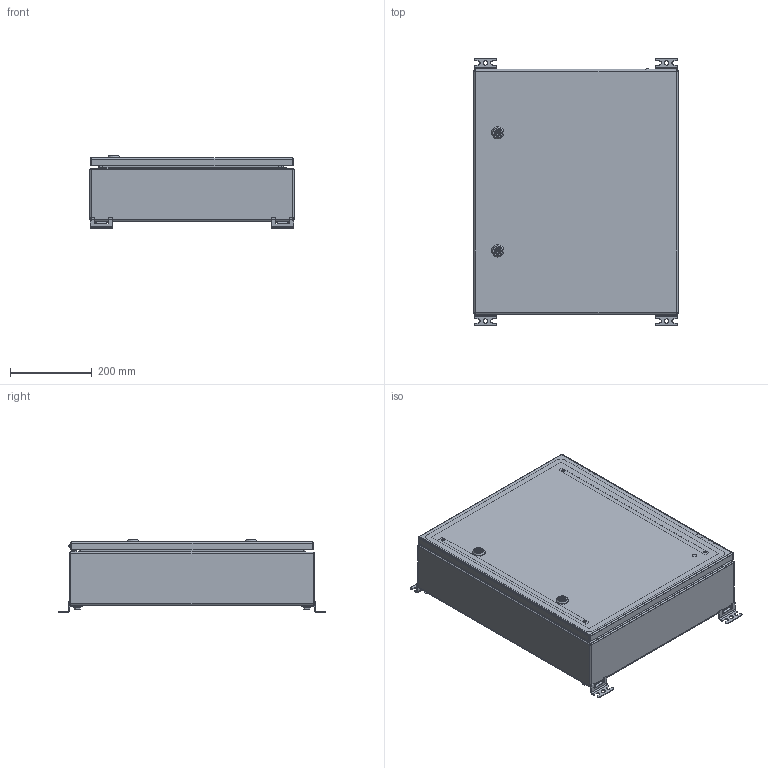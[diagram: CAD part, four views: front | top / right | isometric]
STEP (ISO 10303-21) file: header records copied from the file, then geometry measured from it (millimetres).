
FILE_DESCRIPTION(('STEP AP242'), '1');
FILE_NAME('400 ﾙﾌﾏ-1 (IP-56)', '', ('UNSPECIFIED'), ('UNSPECIFIED'), 'C3D Converter', 'C3D Toolkit', '');
FILE_SCHEMA(('AP242_MANAGED_MODEL_BASED_3D_ENGINEERING_MIM_LF { 1 0 10303 442 1 1 4 }'));
Length unit declared in the file: millimetre
Products named in the file (46): ЩМП-1-Ф СБ; 410-Ф; 420; 421; 411-Ф; 412; 490; 491; 401; 440-Ф; 441-Ф; 402; 450; 451; ЦИУЛ.210677.00.03-03; 452
Assembly tree (104 placements, depth 4):
  ЩМП-1-Ф СБ
    410-Ф
      420
        421
        (unnamed)  x6
        (unnamed)
      411-Ф
      412
    490  x2
      491
      (unnamed)
      (unnamed)
      (unnamed)
      (unnamed)
      (unnamed)
    490  x2
      491
      (unnamed)
      (unnamed)
      (unnamed)
      (unnamed)
      (unnamed)
    401
    (unnamed)  x6
    (unnamed)  x6
    (unnamed)  x6
    (unnamed)  x2
      (unnamed)
      (unnamed)
      (unnamed)
    (unnamed)  x4
    440-Ф
      441-Ф
      (unnamed)
      (unnamed)  x4
      (unnamed)  x2
    402  x2
    (unnamed)  x4
    (unnamed)  x4
    (unnamed)  x2
      (unnamed)
      (unnamed)
      (unnamed)
      (unnamed)
      (unnamed)
    (unnamed)  x2
    450
      451
      (unnamed)  x3
      (unnamed)  x2
      (unnamed)  x2
      (unnamed)  x3
      ЦИУЛ.210677.00.03-03
      452
      (unnamed)
      (unnamed)  x2
Bounding box: 500 x 656 x 178.1 mm (x, y, z)
Volume: 2406034.5 mm3; surface area: 2851645.4 mm2
Topology: 116 solids, 116 shells, 2438 faces, 5838 edges, 3692 vertices
Faces by surface type: plane 1370, cylinder 697, cone 223, extrusion 54, bspline 32, torus 31, sphere 31
Full cylindrical faces by diameter (mm): 0.5 x4, 2.6 x8, 3.3 x1, 3.5 x76, 4 x1, 4.134 x3, 4.2 x5, 4.917 x4, 5 x9, 5.3 x2, 5.5 x11, 5.75 x3, 5.8 x2, 6 x18, 6.4 x4, 6.647 x10, 7 x6, 7.3 x4, 7.4 x1, 7.5 x6, 8 x16, 8.4 x10, 8.5 x19, 9 x12, 10 x10, 10.4 x2, 10.5 x6, 11 x10, 11.4 x1, 11.5 x5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
Entity records: 69078 total; most frequent: CARTESIAN_POINT 35705, DIRECTION 5512, ORIENTED_EDGE 5316, EDGE_CURVE 2658, AXIS2_PLACEMENT_3D 1996, VERTEX_POINT 1778, EDGE_LOOP 1542, VECTOR 1520
